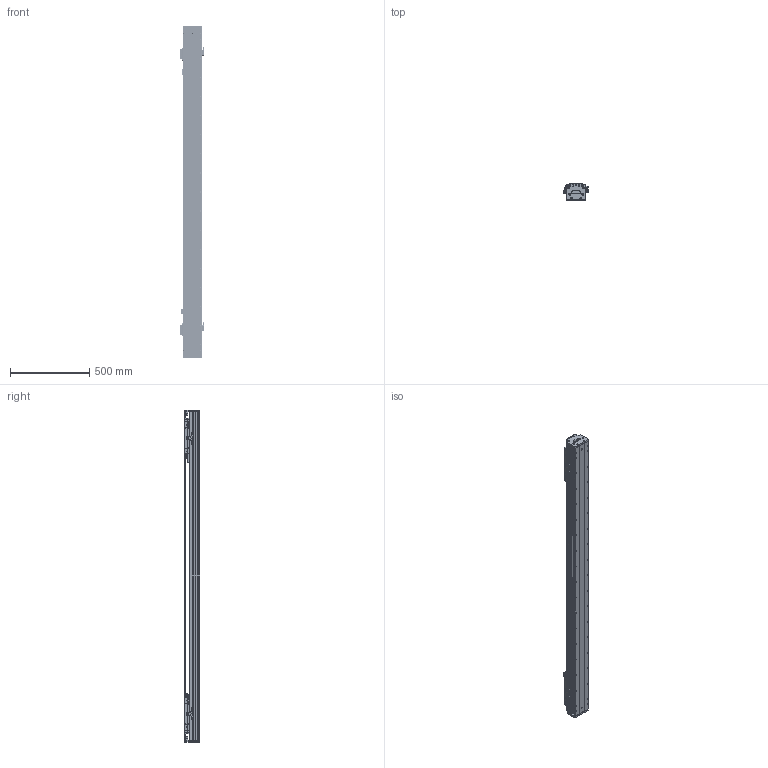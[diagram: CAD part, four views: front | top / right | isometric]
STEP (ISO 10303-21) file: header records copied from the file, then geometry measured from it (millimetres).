
FILE_DESCRIPTION (( 'STEP AP203' ), '1' );
FILE_NAME ('DKW119-2×C3-W060(T1460-L005-0.2).STEP', '2021-09-17T09:28:54', ( '微软用户' ), ( '微软中国' ), 'SwSTEP 2.0', 'SolidWorks 2018', '' );
FILE_SCHEMA (( 'CONFIG_CONTROL_DESIGN' ));
Length unit declared in the file: millimetre
Products named in the file (26): CKM03-W060_00; DKW119 单轴模组-拉钢带组件; CKMA01-W060-TRLxxx; DKW-DG-XJ-Z-00 笢潔滅袉砎蝶; pm-y65; DKW-HXJ-JY-00 遣喳砎蝶; DKW-GYP-ZJ-00 笢潔嫖萇覜茼え; 10980-0001-003-00 嫖萇羲壽嘐隅釱; 11062-0001-004-00 DKW119傷啣; DKW-KGZ-ZJ-00 中间光电开关支架; 嫖萇羲壽蚾饜极; 06652-0001-004-00 DKW120嶺輸菜輸; EE_SX674A; 嫖萇羲壽蚾饜极A; 12018-0001-002-00 詩湍; 12018-0001-001-00 菁釱; DKW119-2×C3-W060(T1460-L005-0.2); DKW-SG-GYP-H-00 嫖萇覜茼え; 砎蝶猾沭; MSB15-DG-U; RUS嫖掑喜; 12160-0000-003-00 DKW120詩湍嶺輸; DKW119-RU-DTJ-00 RU2黍杅芛盓殤; Ru2; 12160-0000-004-00  DKW120詩湍揤輸; 电机出线 ^DKW119-2×C3-W060(T1460-L005-0.2)
Assembly tree (45 placements, depth 3):
  DKW119-2×C3-W060(T1460-L005-0.2)
    12018-0001-001-00 菁釱
    MSB15-DG-U  x2
    DKW119-RU-DTJ-00 RU2黍杅芛盓殤  x2
    电机出线 ^DKW119-2×C3-W060(T1460-L005-0.2)  x2
    CKMA01-W060-TRLxxx
    DKW119 单轴模组-拉钢带组件
      DKW-HXJ-JY-00 遣喳砎蝶  x4
      11062-0001-004-00 DKW119傷啣  x2
      06652-0001-004-00 DKW120嶺輸菜輸  x4
      12018-0001-002-00 詩湍
      砎蝶猾沭  x2
      12160-0000-003-00 DKW120詩湍嶺輸  x2
      12160-0000-004-00  DKW120詩湍揤輸  x2
    嫖萇羲壽蚾饜极
      pm-y65  x2
      10980-0001-003-00 嫖萇羲壽嘐隅釱
    嫖萇羲壽蚾饜极A
      pm-y65  x2
      10980-0001-003-00 嫖萇羲壽嘐隅釱
    DKW-SG-GYP-H-00 嫖萇覜茼え  x2
    RUS嫖掑喜
    Ru2  x2
    CKM03-W060_00  x2
    DKW-DG-XJ-Z-00 笢潔滅袉砎蝶
    DKW-GYP-ZJ-00 笢潔嫖萇覜茼え
    DKW-KGZ-ZJ-00 中间光电开关支架
    EE_SX674A
Bounding box: 154.3 x 99 x 2096 mm (x, y, z)
Volume: 10239608.5 mm3; surface area: 3186677.9 mm2
Topology: 62 solids, 160 shells, 6617 faces, 17582 edges, 11258 vertices
Faces by surface type: plane 3524, cylinder 2049, cone 550, bspline 494
Entity records: 135832 total; most frequent: CARTESIAN_POINT 44471, ORIENTED_EDGE 18315, DIRECTION 17712, EDGE_CURVE 9198, VERTEX_POINT 6030, AXIS2_PLACEMENT_3D 6004, VECTOR 5704, LINE 5704
